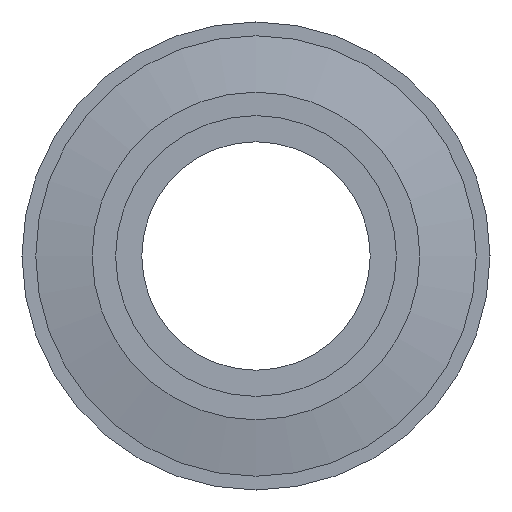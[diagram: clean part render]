
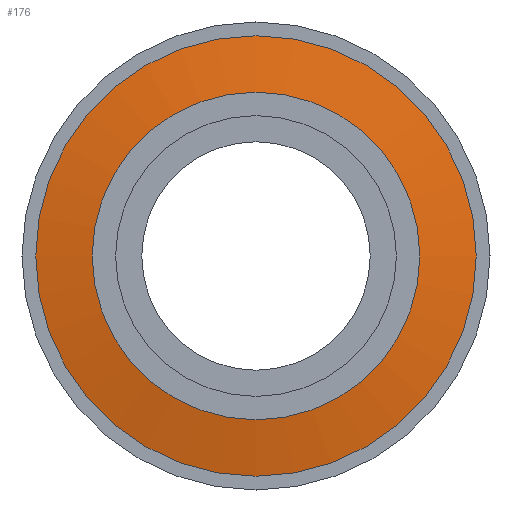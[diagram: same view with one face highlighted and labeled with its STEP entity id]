
A CAD part, front view. The second image highlights one B-rep face of the part: STEP entity #176.
In plain terms, the highlighted conical face has half-angle 80 degrees and reference radius 6.975 mm.
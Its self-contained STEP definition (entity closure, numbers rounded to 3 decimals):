
#142=CARTESIAN_POINT('',(-5.95,-3.2,0.0));
#143=VERTEX_POINT('',#142);
#144=CARTESIAN_POINT('',(0.0,-3.2,0.0));
#145=DIRECTION('',(0.0,1.0,0.0));
#146=DIRECTION('',(-1.0,0.0,0.0));
#147=AXIS2_PLACEMENT_3D('',#144,#145,#146);
#148=CIRCLE('',#147,5.95);
#149=EDGE_CURVE('',#143,#143,#148,.T.);
#157=CARTESIAN_POINT('',(0.0,-3.019,0.0));
#158=DIRECTION('',(0.0,1.0,0.0));
#159=DIRECTION('',(-1.0,0.0,0.0));
#160=AXIS2_PLACEMENT_3D('',#157,#158,#159);
#161=CONICAL_SURFACE('',#160,6.975,80.);
#162=CARTESIAN_POINT('',(-8.,-2.839,0.0));
#163=VERTEX_POINT('',#162);
#164=CARTESIAN_POINT('',(0.0,-2.839,0.0));
#165=DIRECTION('',(0.0,1.0,0.0));
#166=DIRECTION('',(-1.0,0.0,0.0));
#167=AXIS2_PLACEMENT_3D('',#164,#165,#166);
#168=CIRCLE('',#167,8.);
#169=EDGE_CURVE('',#163,#163,#168,.T.);
#170=ORIENTED_EDGE('',*,*,#169,.F.);
#171=EDGE_LOOP('',(#170));
#172=FACE_OUTER_BOUND('',#171,.T.);
#173=ORIENTED_EDGE('',*,*,#149,.T.);
#174=EDGE_LOOP('',(#173));
#175=FACE_BOUND('',#174,.T.);
#176=ADVANCED_FACE('',(#172,#175),#161,.T.);
